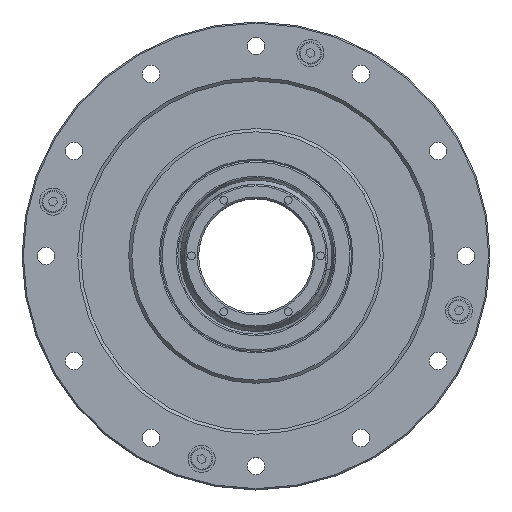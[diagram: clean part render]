
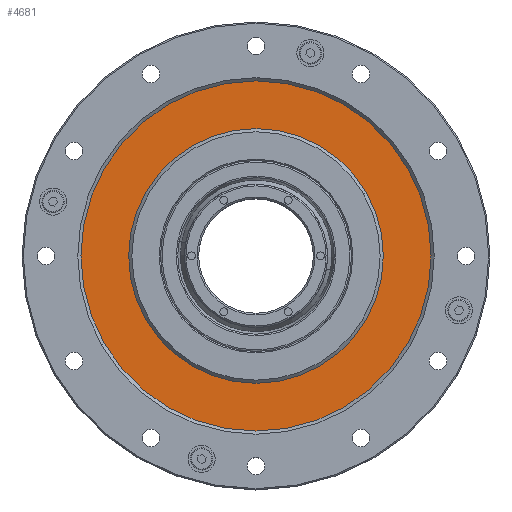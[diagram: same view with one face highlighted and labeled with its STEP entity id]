
A CAD part, top view. The second image highlights one B-rep face of the part: STEP entity #4681.
In plain terms, the highlighted planar face has unit normal (0, 0, 1).
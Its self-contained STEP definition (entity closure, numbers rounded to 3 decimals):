
#56 = EDGE_CURVE ( 'NONE', #2613, #9174, #3113, .T. ) ;
#90 = EDGE_LOOP ( 'NONE', ( #1811, #2644 ) ) ;
#524 = EDGE_CURVE ( 'NONE', #9174, #2613, #4307, .T. ) ;
#928 = CARTESIAN_POINT ( 'NONE',  ( -32.207, -23.165, 161.8 ) ) ;
#993 = CARTESIAN_POINT ( 'NONE',  ( 2.434, -3.165, 161.8 ) ) ;
#1083 = DIRECTION ( 'NONE',  ( 0., 0., 1. ) ) ;
#1489 = AXIS2_PLACEMENT_3D ( 'NONE', #6519, #6758, #6786 ) ;
#1811 = ORIENTED_EDGE ( 'NONE', *, *, #6659, .F. ) ;
#2613 = VERTEX_POINT ( 'NONE', #7350 ) ;
#2644 = ORIENTED_EDGE ( 'NONE', *, *, #7643, .F. ) ;
#2714 = CIRCLE ( 'NONE', #9279, 40. ) ;
#3113 = CIRCLE ( 'NONE', #8200, 55. ) ;
#3411 = CARTESIAN_POINT ( 'NONE',  ( 50.066, 24.335, 161.8 ) ) ;
#3834 = DIRECTION ( 'NONE',  ( 0.866, 0.5, 0. ) ) ;
#4076 = CARTESIAN_POINT ( 'NONE',  ( 2.434, -3.165, 161.8 ) ) ;
#4151 = DIRECTION ( 'NONE',  ( 0., 0., 1. ) ) ;
#4301 = AXIS2_PLACEMENT_3D ( 'NONE', #5299, #5313, #5364 ) ;
#4307 = CIRCLE ( 'NONE', #4301, 55. ) ;
#4681 = ADVANCED_FACE ( 'NONE', ( #9349, #9120 ), #6725, .T. ) ;
#5299 = CARTESIAN_POINT ( 'NONE',  ( 2.434, -3.165, 161.8 ) ) ;
#5313 = DIRECTION ( 'NONE',  ( 0., 0., 1. ) ) ;
#5364 = DIRECTION ( 'NONE',  ( 0.866, 0.5, 0. ) ) ;
#6455 = CIRCLE ( 'NONE', #6640, 40. ) ;
#6519 = CARTESIAN_POINT ( 'NONE',  ( 2.434, -3.165, 161.8 ) ) ;
#6547 = ORIENTED_EDGE ( 'NONE', *, *, #524, .T. ) ;
#6640 = AXIS2_PLACEMENT_3D ( 'NONE', #8904, #8936, #8971 ) ;
#6659 = EDGE_CURVE ( 'NONE', #7040, #7280, #6455, .T. ) ;
#6725 = PLANE ( 'NONE',  #1489 ) ;
#6758 = DIRECTION ( 'NONE',  ( 0., 0., 1. ) ) ;
#6786 = DIRECTION ( 'NONE',  ( 0.866, 0.5, 0. ) ) ;
#7040 = VERTEX_POINT ( 'NONE', #928 ) ;
#7280 = VERTEX_POINT ( 'NONE', #8124 ) ;
#7350 = CARTESIAN_POINT ( 'NONE',  ( -45.197, -30.665, 161.8 ) ) ;
#7597 = EDGE_LOOP ( 'NONE', ( #6547, #8969 ) ) ;
#7643 = EDGE_CURVE ( 'NONE', #7280, #7040, #2714, .T. ) ;
#8124 = CARTESIAN_POINT ( 'NONE',  ( 37.075, 16.835, 161.8 ) ) ;
#8200 = AXIS2_PLACEMENT_3D ( 'NONE', #993, #1083, #3834 ) ;
#8904 = CARTESIAN_POINT ( 'NONE',  ( 2.434, -3.165, 161.8 ) ) ;
#8936 = DIRECTION ( 'NONE',  ( 0., 0., 1. ) ) ;
#8969 = ORIENTED_EDGE ( 'NONE', *, *, #56, .T. ) ;
#8971 = DIRECTION ( 'NONE',  ( 0.866, 0.5, 0. ) ) ;
#9120 = FACE_OUTER_BOUND ( 'NONE', #7597, .T. ) ;
#9174 = VERTEX_POINT ( 'NONE', #3411 ) ;
#9279 = AXIS2_PLACEMENT_3D ( 'NONE', #4076, #4151, #9584 ) ;
#9349 = FACE_BOUND ( 'NONE', #90, .T. ) ;
#9584 = DIRECTION ( 'NONE',  ( 0.866, 0.5, 0. ) ) ;
